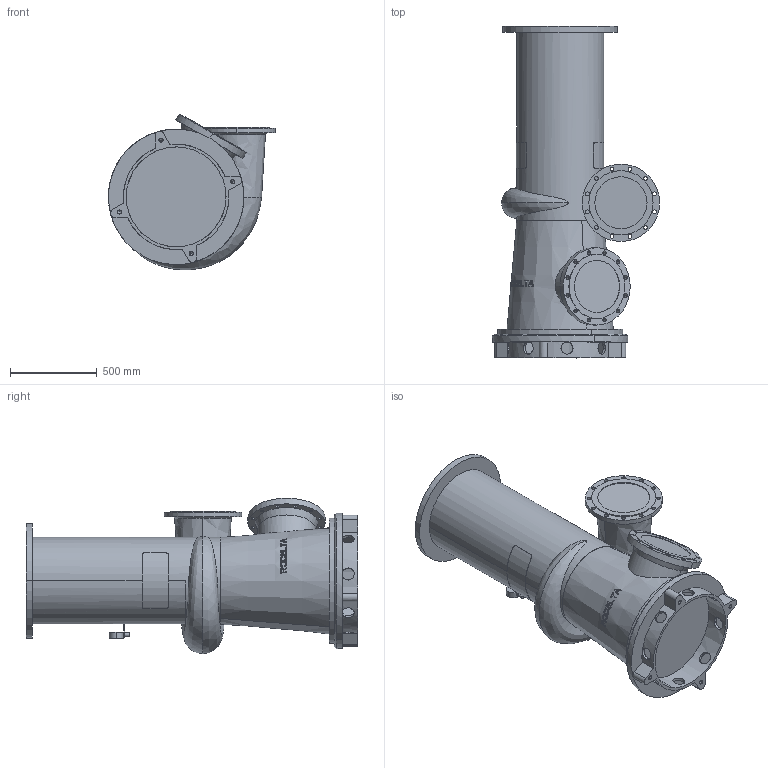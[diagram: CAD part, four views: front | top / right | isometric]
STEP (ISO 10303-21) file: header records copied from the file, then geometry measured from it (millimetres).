
FILE_DESCRIPTION((''),'2;1');
FILE_NAME('12-510_ASM','2024-08-05T',('Lyritlocal'),(''),'PRO/ENGINEER BY PARAMETRIC TECHNOLOGY CORPORATION, 2016360','PRO/ENGINEER BY PARAMETRIC TECHNOLOGY CORPORATION, 2016360','');
FILE_SCHEMA(('CONFIG_CONTROL_DESIGN'));
Length unit declared in the file: millimetre
Products named in the file (3): 12-510; 12-510_VOET; 12-510_ASM
Assembly tree (2 placements, depth 2):
  12-510_ASM
    12-510
    12-510_VOET
Bounding box: 962.5 x 1910 x 896.18 mm (x, y, z)
Volume: 485964673.1 mm3; surface area: 6451901.8 mm2
Topology: 2 solids, 6 shells, 503 faces, 1366 edges, 900 vertices
Faces by surface type: plane 323, cylinder 138, cone 36, bspline 6
Entity records: 18234 total; most frequent: CARTESIAN_POINT 5945, ORIENTED_EDGE 2700, DIRECTION 2279, EDGE_CURVE 1358, VERTEX_POINT 900, AXIS2_PLACEMENT_3D 896, EDGE_LOOP 608, FACE_OUTER_BOUND 503
